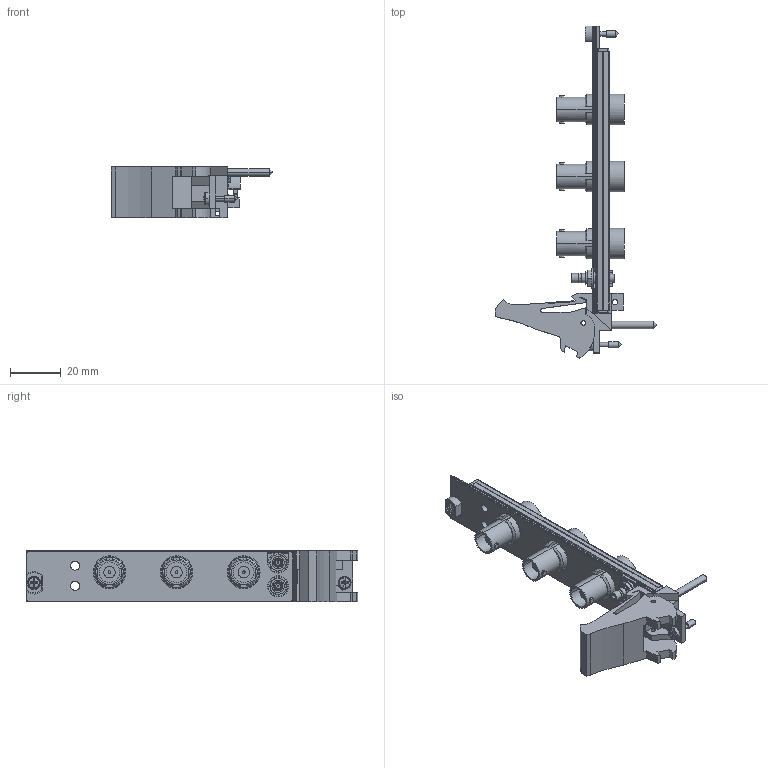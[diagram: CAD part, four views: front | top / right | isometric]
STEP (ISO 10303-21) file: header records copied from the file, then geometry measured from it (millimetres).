
FILE_DESCRIPTION((''),'2;1');
FILE_NAME('CU_PXI-515X','2009-12-02T',('jjorden'),(''),'PRO/ENGINEER BY PARAMETRIC TECHNOLOGY CORPORATION, 2006080','PRO/ENGINEER BY PARAMETRIC TECHNOLOGY CORPORATION, 2006080','');
FILE_SCHEMA(('CONFIG_CONTROL_DESIGN'));
Length unit declared in the file: inch
Products named in the file (1): CU_PXI-515X
Bounding box: 63.53 x 130.61 x 20.31 mm (x, y, z)
Volume: 18660.6 mm3; surface area: 21948 mm2
Topology: 1 solids, 1 shells, 873 faces, 2362 edges, 1520 vertices
Faces by surface type: plane 497, cylinder 308, cone 60, torus 4, sphere 4
Entity records: 29319 total; most frequent: CARTESIAN_POINT 6830, DIRECTION 4725, ORIENTED_EDGE 4716, EDGE_CURVE 2358, AXIS2_PLACEMENT_3D 1647, VERTEX_POINT 1520, VECTOR 1431, LINE 1431
